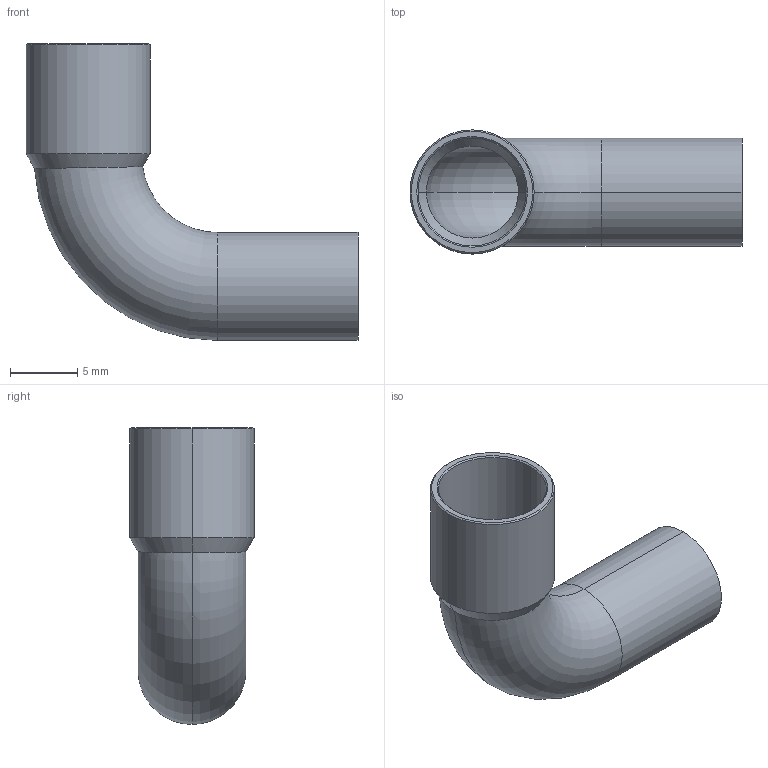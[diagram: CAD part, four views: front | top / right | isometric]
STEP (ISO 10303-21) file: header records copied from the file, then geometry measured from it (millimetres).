
FILE_DESCRIPTION((''),'2;1');
FILE_NAME('P:\Bouwmaten\z-maattekeningen 3D\5000\5001a\15001a8.stp','2005-10-04T14:12:21',('Kris'),(''),'Autodesk Inventor 8','Autodesk Inventor 8','');
FILE_SCHEMA(('AUTOMOTIVE_DESIGN { 1 0 10303 214 1 1 1 1 }'));
Length unit declared in the file: millimetre
Products named in the file (1): 15001a8
Bounding box: 24.6 x 9.2 x 22 mm (x, y, z)
Volume: 494.2 mm3; surface area: 1675.1 mm2
Topology: 1 solids, 1 shells, 22 faces, 46 edges, 26 vertices
Faces by surface type: cone 8, cylinder 8, torus 4, plane 2
Entity records: 679 total; most frequent: CARTESIAN_POINT 171, DIRECTION 114, ORIENTED_EDGE 92, AXIS2_PLACEMENT_3D 49, EDGE_CURVE 46, VERTEX_POINT 26, CIRCLE 26, EDGE_LOOP 24
